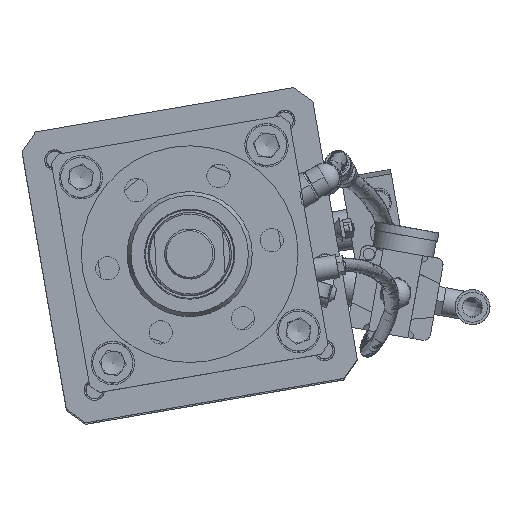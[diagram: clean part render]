
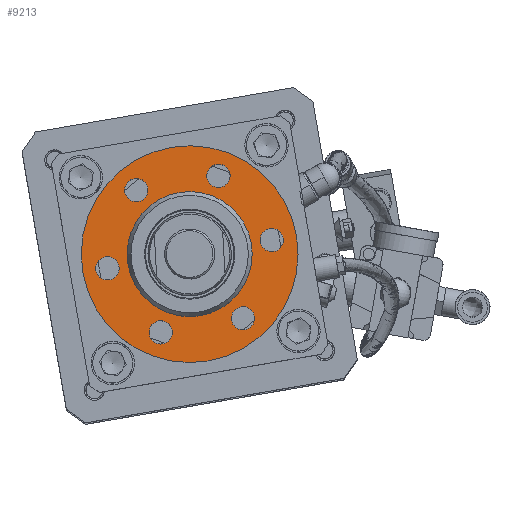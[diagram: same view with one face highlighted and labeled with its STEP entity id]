
A CAD part, top view. The second image highlights one B-rep face of the part: STEP entity #9213.
In plain terms, the highlighted planar face has unit normal (0, 0, 1).
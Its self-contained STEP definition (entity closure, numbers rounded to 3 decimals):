
#40 = AXIS2_PLACEMENT_3D ( 'NONE', #3260, #1119, #5486 ) ;
#205 = AXIS2_PLACEMENT_3D ( 'NONE', #19414, #19282, #8470 ) ;
#415 = ORIENTED_EDGE ( 'NONE', *, *, #7839, .F. ) ;
#792 = CIRCLE ( 'NONE', #20018, 7. ) ;
#964 = DIRECTION ( 'NONE',  ( -0.17, 0.986, 0. ) ) ;
#1119 = DIRECTION ( 'NONE',  ( 0., 0., 1. ) ) ;
#1386 = CARTESIAN_POINT ( 'NONE',  ( 280.344, 86.377, 112.94 ) ) ;
#1774 = AXIS2_PLACEMENT_3D ( 'NONE', #25009, #10054, #5824 ) ;
#1870 = FACE_OUTER_BOUND ( 'NONE', #27186, .T. ) ;
#3139 = CIRCLE ( 'NONE', #1774, 7. ) ;
#3260 = CARTESIAN_POINT ( 'NONE',  ( 214.963, 24.083, 112.94 ) ) ;
#3933 = CARTESIAN_POINT ( 'NONE',  ( 257.877, 69.521, 112.94 ) ) ;
#3949 = CIRCLE ( 'NONE', #11169, 7. ) ;
#4337 = VERTEX_POINT ( 'NONE', #27692 ) ;
#5219 = CARTESIAN_POINT ( 'NONE',  ( 253.213, 96.622, 112.94 ) ) ;
#5486 = DIRECTION ( 'NONE',  ( -0.17, 0.986, 0. ) ) ;
#5638 = FACE_BOUND ( 'NONE', #25023, .T. ) ;
#5824 = DIRECTION ( 'NONE',  ( -0.17, 0.986, 0. ) ) ;
#5912 = PLANE ( 'NONE',  #18134 ) ;
#6470 = DIRECTION ( 'NONE',  ( 0., 0., 1. ) ) ;
#6792 = ORIENTED_EDGE ( 'NONE', *, *, #22343, .F. ) ;
#7413 = CARTESIAN_POINT ( 'NONE',  ( 213.776, 30.981, 112.94 ) ) ;
#7520 = VERTEX_POINT ( 'NONE', #16476 ) ;
#7839 = EDGE_CURVE ( 'NONE', #12807, #12807, #13422, .T. ) ;
#8041 = AXIS2_PLACEMENT_3D ( 'NONE', #25288, #25591, #27655 ) ;
#8290 = DIRECTION ( 'NONE',  ( 0., 0., 1. ) ) ;
#8459 = EDGE_LOOP ( 'NONE', ( #17810 ) ) ;
#8470 = DIRECTION ( 'NONE',  ( -0.17, 0.986, 0. ) ) ;
#8994 = CARTESIAN_POINT ( 'NONE',  ( 264.238, 32.564, 112.94 ) ) ;
#9213 = ADVANCED_FACE ( 'NONE', ( #21052, #16569, #16279, #25111, #10550, #5638, #25245, #1870 ), #5912, .T. ) ;
#10054 = DIRECTION ( 'NONE',  ( 0., 0., 1. ) ) ;
#10192 = EDGE_LOOP ( 'NONE', ( #26882 ) ) ;
#10215 = VERTEX_POINT ( 'NONE', #1386 ) ;
#10550 = FACE_BOUND ( 'NONE', #26655, .T. ) ;
#10884 = DIRECTION ( 'NONE',  ( -0.17, 0.986, 0. ) ) ;
#11008 = CARTESIAN_POINT ( 'NONE',  ( 313.514, 41.045, 112.94 ) ) ;
#11169 = AXIS2_PLACEMENT_3D ( 'NONE', #12124, #8290, #27064 ) ;
#11310 = EDGE_CURVE ( 'NONE', #24389, #24389, #16530, .T. ) ;
#12124 = CARTESIAN_POINT ( 'NONE',  ( 246.945, -14.35, 112.94 ) ) ;
#12807 = VERTEX_POINT ( 'NONE', #17565 ) ;
#12997 = CIRCLE ( 'NONE', #40, 7. ) ;
#13155 = VERTEX_POINT ( 'NONE', #21668 ) ;
#13373 = DIRECTION ( 'NONE',  ( 0., 0., 1. ) ) ;
#13422 = CIRCLE ( 'NONE', #22327, 7. ) ;
#14514 = EDGE_LOOP ( 'NONE', ( #22354 ) ) ;
#14694 = EDGE_LOOP ( 'NONE', ( #15865 ) ) ;
#15432 = DIRECTION ( 'NONE',  ( -0.17, 0.986, 0. ) ) ;
#15865 = ORIENTED_EDGE ( 'NONE', *, *, #26701, .F. ) ;
#16202 = DIRECTION ( 'NONE',  ( 0., 0., 1. ) ) ;
#16279 = FACE_BOUND ( 'NONE', #8459, .T. ) ;
#16476 = CARTESIAN_POINT ( 'NONE',  ( 231.068, 77.896, 112.94 ) ) ;
#16530 = CIRCLE ( 'NONE', #8041, 65. ) ;
#16569 = FACE_BOUND ( 'NONE', #14694, .T. ) ;
#16921 = EDGE_CURVE ( 'NONE', #21835, #21835, #12997, .T. ) ;
#17565 = CARTESIAN_POINT ( 'NONE',  ( 295.034, 1.029, 112.94 ) ) ;
#17660 = ORIENTED_EDGE ( 'NONE', *, *, #16921, .F. ) ;
#17810 = ORIENTED_EDGE ( 'NONE', *, *, #19563, .F. ) ;
#17837 = DIRECTION ( 'NONE',  ( -0.17, 0.986, 0. ) ) ;
#18134 = AXIS2_PLACEMENT_3D ( 'NONE', #8994, #6470, #15432 ) ;
#18783 = ORIENTED_EDGE ( 'NONE', *, *, #11310, .T. ) ;
#19282 = DIRECTION ( 'NONE',  ( 0., 0., 1. ) ) ;
#19414 = CARTESIAN_POINT ( 'NONE',  ( 264.238, 32.564, 112.94 ) ) ;
#19563 = EDGE_CURVE ( 'NONE', #10215, #10215, #27435, .T. ) ;
#19589 = EDGE_CURVE ( 'NONE', #25195, #25195, #26114, .T. ) ;
#20018 = AXIS2_PLACEMENT_3D ( 'NONE', #11008, #13373, #17837 ) ;
#20292 = CARTESIAN_POINT ( 'NONE',  ( 296.221, -5.869, 112.94 ) ) ;
#20767 = AXIS2_PLACEMENT_3D ( 'NONE', #27649, #23485, #10884 ) ;
#21052 = FACE_BOUND ( 'NONE', #21180, .T. ) ;
#21180 = EDGE_LOOP ( 'NONE', ( #17660 ) ) ;
#21668 = CARTESIAN_POINT ( 'NONE',  ( 312.326, 47.944, 112.94 ) ) ;
#21835 = VERTEX_POINT ( 'NONE', #7413 ) ;
#22327 = AXIS2_PLACEMENT_3D ( 'NONE', #20292, #16202, #964 ) ;
#22343 = EDGE_CURVE ( 'NONE', #4337, #4337, #3949, .T. ) ;
#22354 = ORIENTED_EDGE ( 'NONE', *, *, #25474, .F. ) ;
#23485 = DIRECTION ( 'NONE',  ( 0., 0., 1. ) ) ;
#24389 = VERTEX_POINT ( 'NONE', #5219 ) ;
#25009 = CARTESIAN_POINT ( 'NONE',  ( 232.256, 70.997, 112.94 ) ) ;
#25023 = EDGE_LOOP ( 'NONE', ( #6792 ) ) ;
#25111 = FACE_BOUND ( 'NONE', #14514, .T. ) ;
#25195 = VERTEX_POINT ( 'NONE', #3933 ) ;
#25245 = FACE_BOUND ( 'NONE', #10192, .T. ) ;
#25288 = CARTESIAN_POINT ( 'NONE',  ( 264.238, 32.564, 112.94 ) ) ;
#25474 = EDGE_CURVE ( 'NONE', #13155, #13155, #792, .T. ) ;
#25591 = DIRECTION ( 'NONE',  ( 0., 0., 1. ) ) ;
#26114 = CIRCLE ( 'NONE', #205, 37.5 ) ;
#26655 = EDGE_LOOP ( 'NONE', ( #415 ) ) ;
#26701 = EDGE_CURVE ( 'NONE', #7520, #7520, #3139, .T. ) ;
#26882 = ORIENTED_EDGE ( 'NONE', *, *, #19589, .F. ) ;
#27064 = DIRECTION ( 'NONE',  ( -0.17, 0.986, 0. ) ) ;
#27186 = EDGE_LOOP ( 'NONE', ( #18783 ) ) ;
#27435 = CIRCLE ( 'NONE', #20767, 7. ) ;
#27649 = CARTESIAN_POINT ( 'NONE',  ( 281.531, 79.478, 112.94 ) ) ;
#27655 = DIRECTION ( 'NONE',  ( -0.17, 0.986, 0. ) ) ;
#27692 = CARTESIAN_POINT ( 'NONE',  ( 245.758, -7.452, 112.94 ) ) ;
